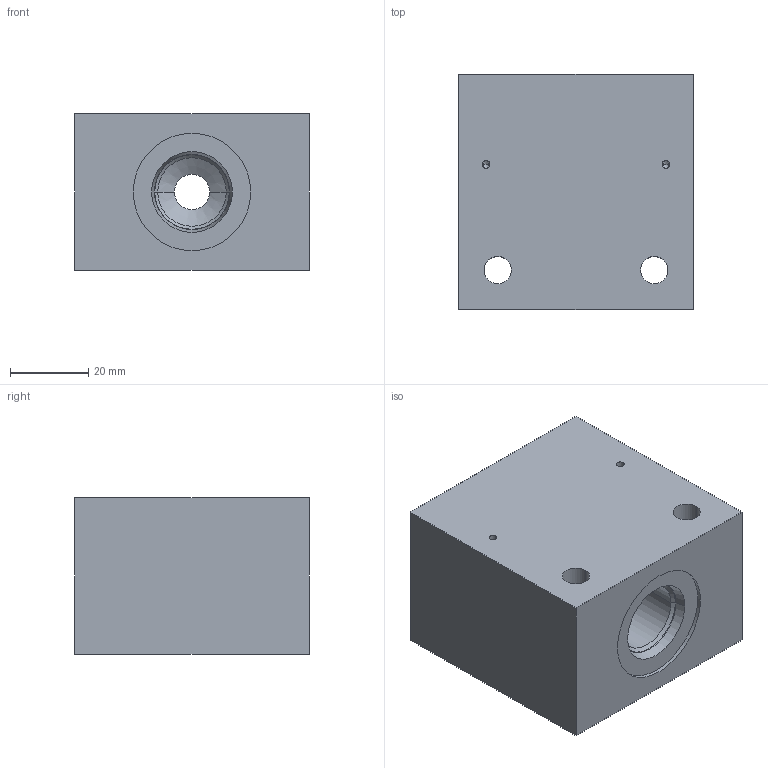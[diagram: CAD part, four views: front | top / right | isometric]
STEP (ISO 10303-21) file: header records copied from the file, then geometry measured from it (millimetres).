
FILE_DESCRIPTION((''),'2;1');
FILE_NAME('1000411043','2023-10-11T',('l.soukupova'),(''),'PRO/ENGINEER BY PARAMETRIC TECHNOLOGY CORPORATION, 2015440','PRO/ENGINEER BY PARAMETRIC TECHNOLOGY CORPORATION, 2015440','');
FILE_SCHEMA(('AUTOMOTIVE_DESIGN { 1 0 10303 214 1 1 1 1 }'));
Length unit declared in the file: millimetre
Products named in the file (1): 1000411043
Bounding box: 60 x 60 x 40 mm (x, y, z)
Volume: 122727.6 mm3; surface area: 24202.7 mm2
Topology: 1 solids, 4 shells, 68 faces, 233 edges, 194 vertices
Faces by surface type: cylinder 32, cone 24, plane 12
Entity records: 3409 total; most frequent: CARTESIAN_POINT 499, DIRECTION 451, ORIENTED_EDGE 294, PRESENTATION_STYLE_ASSIGNMENT 255, STYLED_ITEM 249, CURVE_STYLE 245, AXIS2_PLACEMENT_3D 154, EDGE_CURVE 153
